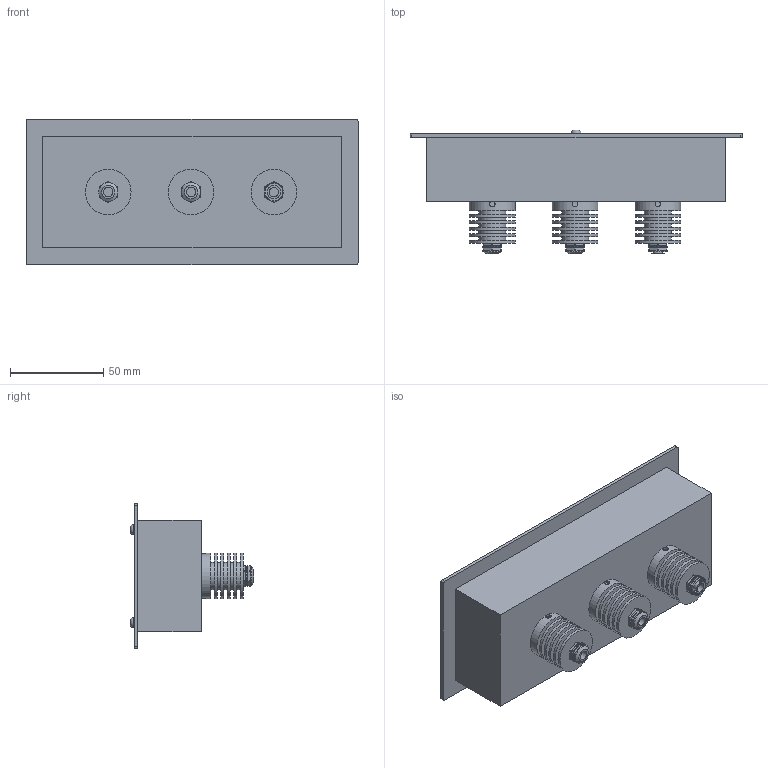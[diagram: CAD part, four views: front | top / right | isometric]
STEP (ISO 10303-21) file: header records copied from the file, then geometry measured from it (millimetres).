
FILE_DESCRIPTION(/* description */ (''),/* implementation_level */ '2;1');
FILE_NAME(/* name */ 'C:/Users/elena/Downloads/Pinolo combo.step',/* time_stamp */ '2020-06-10T12:40:51+02:00',/* author */ (''),/* organization */ (''),/* preprocessor_version */ 'ST-DEVELOPER v18.1',/* originating_system */ 'Autodesk Translation Framework v9.3.0.1241',/* authorisation */ '');
FILE_SCHEMA (('AUTOMOTIVE_DESIGN { 1 0 10303 214 3 1 1 }'));
Length unit declared in the file: millimetre
Products named in the file (3): (Unsaved); Pinolo v4; Pinolo bracket
Assembly tree (2 placements, depth 3):
  (Unsaved)
    Pinolo v4
      Pinolo bracket
Bounding box: 178 x 66.15 x 78 mm (x, y, z)
Volume: 107207.8 mm3; surface area: 97070.1 mm2
Topology: 12 solids, 15 shells, 352 faces, 700 edges, 445 vertices
Faces by surface type: plane 203, cylinder 129, cone 18, bspline 2
Full cylindrical faces by diameter (mm): 3 x6, 3.1 x2, 5 x3, 5.5 x2, 10 x1, 10.127 x3, 14.5 x15, 16.9 x3, 17 x3, 19.9 x3, 22 x6, 23 x6, 23.4 x3, 24.5 x27
Entity records: 9644 total; most frequent: CARTESIAN_POINT 1968, DIRECTION 1693, ORIENTED_EDGE 1400, EDGE_CURVE 700, AXIS2_PLACEMENT_3D 662, VERTEX_POINT 445, EDGE_LOOP 441, LINE 369
